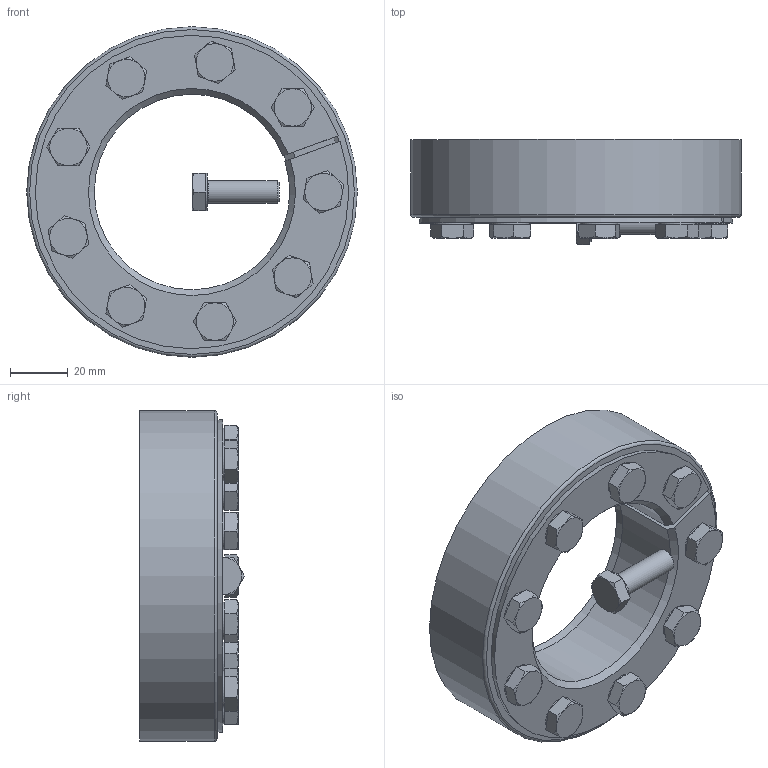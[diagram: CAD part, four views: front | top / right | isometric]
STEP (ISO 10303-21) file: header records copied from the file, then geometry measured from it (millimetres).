
FILE_DESCRIPTION( ( 'Unknown' ), '1' );
FILE_NAME( 'C:/Dokumente und Einstellungen/Sven/Desktop/homepage/cad - homepage/KBS19-1/KBS 19_1 - 68 x 115.stp', 'Unknown', ( 'Unknown' ), ( 'Unknown' ), 'XStep 1.0', 'Unknown', ' ' );
FILE_SCHEMA( ( 'automotive_design' ) );
Length unit declared in the file: millimetre
Products named in the file (3): Assem1; KBS 19_1 - 68 x 115; ISO 4017 - M8 x 25-N
Bounding box: 115 x 36.51 x 115 mm (x, y, z)
Volume: 378108.8 mm3; surface area: 83613.8 mm2
Topology: 12 solids, 12 shells, 298 faces, 666 edges, 402 vertices
Faces by surface type: plane 168, cone 76, cylinder 42, torus 12
Full cylindrical faces by diameter (mm): 8 x28, 13 x10, 115 x2
Entity records: 1690 total; most frequent: CARTESIAN_POINT 287, DIRECTION 248, ORIENTED_EDGE 202, AXIS2_PLACEMENT_3D 105, EDGE_CURVE 101, EDGE_LOOP 85, VERTEX_POINT 72, FACE_OUTER_BOUND 63
